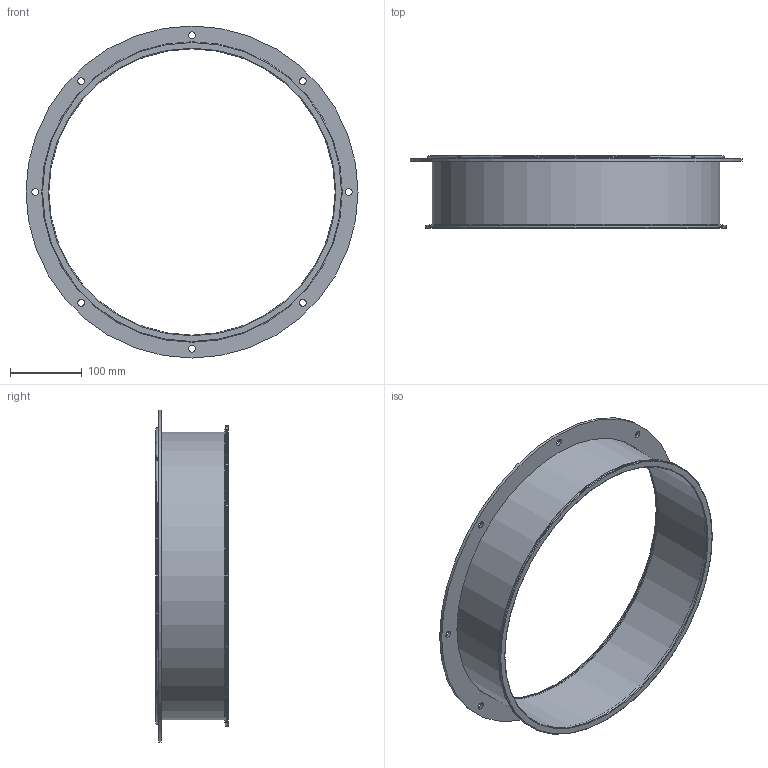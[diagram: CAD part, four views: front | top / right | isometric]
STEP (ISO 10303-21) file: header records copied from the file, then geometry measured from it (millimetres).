
FILE_DESCRIPTION(/* description */ (''),/* implementation_level */ '2;1');
FILE_NAME(/* name */ 'METU_EA108-41B_400_L100.stp',/* time_stamp */ '2018-10-10T13:17:06+02:00',/* author */ (''),/* organization */ (''),/* preprocessor_version */ 'ST-DEVELOPER v11',/* originating_system */ 'SIEMENS UGS NX 6.0',/* authorisation */ '');
FILE_SCHEMA (('CONFIG_CONTROL_DESIGN'));
Length unit declared in the file: millimetre
Products named in the file (1): garsCF17de6v
Bounding box: 464 x 101.5 x 464 mm (x, y, z)
Volume: 372547.7 mm3; surface area: 419891.5 mm2
Topology: 3 solids, 3 shells, 32 faces, 76 edges, 53 vertices
Faces by surface type: cylinder 17, plane 9, torus 5, cone 1
Full cylindrical faces by diameter (mm): 9.5 x8, 400 x2, 402 x2, 404 x1, 412 x2, 420 x1, 464 x1
Entity records: 850 total; most frequent: DIRECTION 146, CARTESIAN_POINT 113, FACE_BOUND 80, EDGE_LOOP 80, ORIENTED_EDGE 80, AXIS2_PLACEMENT_3D 73, VERTEX_POINT 40, EDGE_CURVE 40
